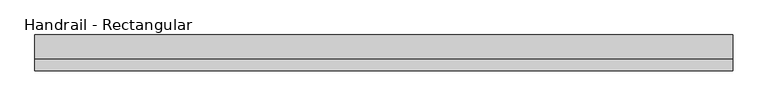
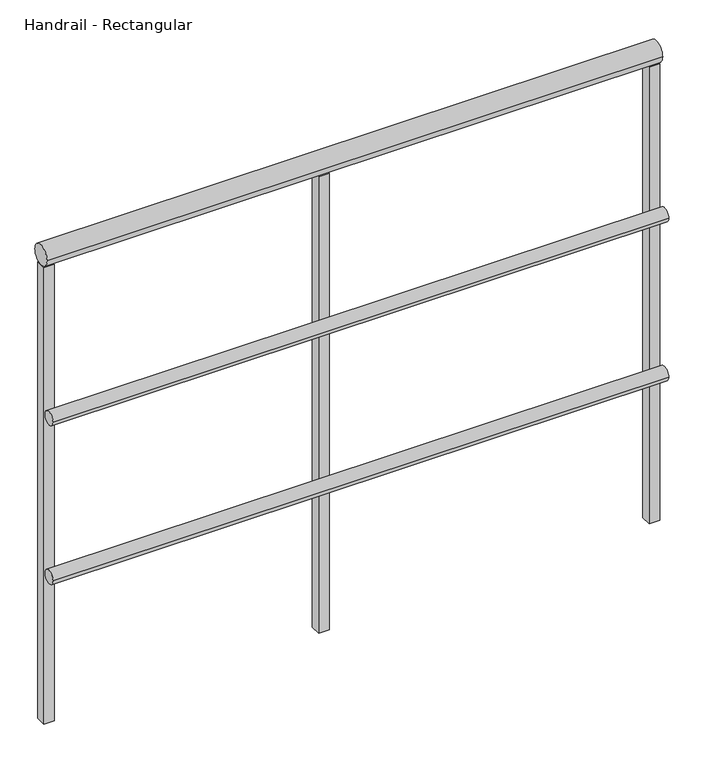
"""IFC4 building model written with IfcOpenShell, lengths in millimetres: railing geometry, Handrail - Rectangular."""

import ifcopenshell
import ifcopenshell.guid

model = None  # the IFC model being written
_history = None  # IfcOwnerHistory: only IFC2X3 demands one
_inside = {}  # id of a spatial element -> (the spatial element, [elements in it])
_under = {}  # id of a project, library or spatial element -> (it, [spatial elements below it])
_declared = {}  # id of a project -> (the project, [libraries it declares])
_typed = {}  # id of a type object -> (the type object, [elements of that type])
_made_of = {}  # id of a material, layer set ... -> (it, [elements and type objects made of it])


def new_model(schema):
    """Start an empty IFC model of exactly this schema.

    Asked for "IFC4X3", IfcOpenShell would pick the latest addendum, in which some entities
    have other attributes; the version numbers below select the first issue.
    IFC2X3 requires an IfcOwnerHistory on every rooted entity: one is made here for all.
    """
    global model, _history
    if schema == "IFC4X3":
        model = ifcopenshell.file(schema_version=(4, 3, 0, 0))
    else:
        model = ifcopenshell.file(schema=schema)
    _inside.clear()
    _under.clear()
    _declared.clear()
    _typed.clear()
    _made_of.clear()
    _history = None
    if model.schema == "IFC2X3":
        org = make("IfcOrganization", Name="unknown")
        user = make(
            "IfcPersonAndOrganization",
            ThePerson=make("IfcPerson", FamilyName="unknown"),
            TheOrganization=org,
        )
        app = make(
            "IfcApplication",
            ApplicationDeveloper=org,
            Version="unknown",
            ApplicationFullName="unknown",
            ApplicationIdentifier="unknown",
        )
        _history = make(
            "IfcOwnerHistory",
            OwningUser=user,
            OwningApplication=app,
            ChangeAction="ADDED",
            CreationDate=0,
        )
    return model


def make(cls, **values):
    """One entity of the class cls with the attributes given. An attribute that is None is left unset."""
    return model.create_entity(
        cls, **{name: value for name, value in values.items() if value is not None}
    )


def rooted(cls, **values):
    """An entity with a GlobalId (a new one), such as an element, a storey or a relation."""
    return make(cls, GlobalId=ifcopenshell.guid.new(), OwnerHistory=_history, **values)


def si_unit(unit_type, name, prefix=None):
    """IfcSIUnit, for example si_unit("LENGTHUNIT", "METRE", prefix="MILLI")."""
    return make("IfcSIUnit", UnitType=unit_type, Prefix=prefix, Name=name)


def assignment(units):
    """IfcUnitAssignment: the units of a project."""
    return None if units is None else make("IfcUnitAssignment", Units=units)


def point(xyz):
    """IfcCartesianPoint."""
    return None if xyz is None else make("IfcCartesianPoint", Coordinates=xyz)


def direction(xyz):
    """IfcDirection."""
    return None if xyz is None else make("IfcDirection", DirectionRatios=xyz)


def frame(location, z_axis=None, x_axis=None):
    """IfcAxis2Placement3D, a coordinate frame: its origin and axes. An axis left out is left unset."""
    return make(
        "IfcAxis2Placement3D",
        Location=point(location),
        Axis=direction(z_axis),
        RefDirection=direction(x_axis),
    )


def frame_2d(location, x_axis=None):
    """IfcAxis2Placement2D, a coordinate frame in the plane: its origin and x axis."""
    return make(
        "IfcAxis2Placement2D", Location=point(location), RefDirection=direction(x_axis)
    )


def origin():
    """The frame at (0, 0, 0) with its axes left unset."""
    return frame((0.0, 0.0, 0.0))


def place(relative_to, where):
    """IfcLocalPlacement: puts the frame where relative to a parent placement (None: the world)."""
    return make(
        "IfcLocalPlacement", PlacementRelTo=relative_to, RelativePlacement=where
    )


def context(
    kind, dimensions, precision=None, world=None, true_north=None, identifier=None
):
    """IfcGeometricRepresentationContext, for example the 3D "Model" context."""
    return make(
        "IfcGeometricRepresentationContext",
        ContextIdentifier=identifier,
        ContextType=kind,
        CoordinateSpaceDimension=dimensions,
        Precision=precision,
        WorldCoordinateSystem=world,
        TrueNorth=true_north,
    )


def project(units=None, contexts=None):
    """IfcProject with its units and contexts."""
    return rooted(
        "IfcProject",
        Name="project",
        RepresentationContexts=contexts,
        UnitsInContext=assignment(units),
    )


def spatial(cls, under=None, at=None, **own):
    """A site, building, storey or space (cls), placed at a placement, below another one or the project."""
    s = rooted(cls, ObjectPlacement=at, **own)
    if under is not None:
        _under.setdefault(under.id(), (under, []))[1].append(s)
    return s


def polyline(points):
    """IfcPolyline through the points."""
    return make("IfcPolyline", Points=[point(p) for p in points])


def circle_curve(where, radius):
    """IfcCircle in the frame where."""
    return make("IfcCircle", Position=where, Radius=radius)


def trimmed(basis, trim1, trim2, sense, master):
    """IfcTrimmedCurve: the piece of a basis curve between two trims."""
    return make(
        "IfcTrimmedCurve",
        BasisCurve=basis,
        Trim1=trim1,
        Trim2=trim2,
        SenseAgreement=sense,
        MasterRepresentation=master,
    )


def segment(curve, same_sense, transition):
    """IfcCompositeCurveSegment."""
    return make(
        "IfcCompositeCurveSegment",
        Transition=transition,
        SameSense=same_sense,
        ParentCurve=curve,
    )


def composite_curve(segments, self_intersect=None):
    """IfcCompositeCurve: segments joined end to end."""
    return make("IfcCompositeCurve", Segments=segments, SelfIntersect=self_intersect)


def outline(outer, holes=None, kind="AREA"):
    """IfcArbitraryClosedProfileDef: a profile drawn as a closed curve; with holes, ...WithVoids."""
    if holes is None:
        return make("IfcArbitraryClosedProfileDef", ProfileType=kind, OuterCurve=outer)
    return make(
        "IfcArbitraryProfileDefWithVoids",
        ProfileType=kind,
        OuterCurve=outer,
        InnerCurves=holes,
    )


def extrude(swept, where, along, depth):
    """IfcExtrudedAreaSolid: the profile swept, set in the frame where, extruded along a direction by depth."""
    return make(
        "IfcExtrudedAreaSolid",
        SweptArea=swept,
        Position=where,
        ExtrudedDirection=direction(along),
        Depth=depth,
    )


def shape(context_of_items, identifier, shape_type, items):
    """IfcShapeRepresentation: the items that make up one representation, for example the "Body"."""
    return make(
        "IfcShapeRepresentation",
        ContextOfItems=context_of_items,
        RepresentationIdentifier=identifier,
        RepresentationType=shape_type,
        Items=items,
    )


def source(mapping_origin, context_of_items, identifier, shape_type, items):
    """IfcRepresentationMap: a shape defined once, which mapped items show again and again."""
    return make(
        "IfcRepresentationMap",
        MappingOrigin=mapping_origin,
        MappedRepresentation=shape(context_of_items, identifier, shape_type, items),
    )


def transform(
    local_origin,
    x_axis=None,
    y_axis=None,
    z_axis=None,
    scale=None,
    scale2=None,
    scale3=None,
    uniform=True,
):
    """IfcCartesianTransformationOperator3D, or its non-uniform kind. x_axis, y_axis, z_axis: its Axis1, 2, 3."""
    if uniform:
        return make(
            "IfcCartesianTransformationOperator3D",
            Axis1=direction(x_axis),
            Axis2=direction(y_axis),
            LocalOrigin=point(local_origin),
            Scale=scale,
            Axis3=direction(z_axis),
        )
    return make(
        "IfcCartesianTransformationOperator3DnonUniform",
        Axis1=direction(x_axis),
        Axis2=direction(y_axis),
        LocalOrigin=point(local_origin),
        Scale=scale,
        Axis3=direction(z_axis),
        Scale2=scale2,
        Scale3=scale3,
    )


def mapped(mapping_source, mapping_target):
    """IfcMappedItem: shows the shape of a source again, moved by a transform."""
    return make(
        "IfcMappedItem", MappingSource=mapping_source, MappingTarget=mapping_target
    )


def made_of(thing, what):
    """Note that an element or type object is made of a material, layer set ...; save() writes the relation."""
    if what is not None:
        _made_of.setdefault(what.id(), (what, []))[1].append(thing)
    return thing


def element(
    cls,
    number,
    at=None,
    inside=None,
    cuts=None,
    type_object=None,
    material=None,
    context=None,
    identifier="Body",
    shape_type=None,
    held_by="IfcProductDefinitionShape",
    body=None,
    shapes=None,
    **own,
):
    """One element of the class cls, such as IfcWall. Its Tag is "e" and its number.

    at: its placement. inside: the storey or other place that contains it. cuts: it is an
    opening in that element (IfcRelVoidsElement). A single representation is given by context,
    identifier, shape_type and body (its items); several are given by shapes. held_by: the class
    of the entity that holds the representations. save() writes the other relations.
    """
    e = rooted(cls, Tag="e%d" % number, ObjectPlacement=at, **own)
    if body is not None:
        shapes = [shape(context, identifier, shape_type, body)]
    if shapes is not None:
        e.Representation = make(held_by, Representations=shapes)
    if inside is not None:
        _inside.setdefault(inside.id(), (inside, []))[1].append(e)
    if cuts is not None:
        rooted(
            "IfcRelVoidsElement", RelatingBuildingElement=cuts, RelatedOpeningElement=e
        )
    if type_object is not None:
        _typed.setdefault(type_object.id(), (type_object, []))[1].append(e)
    return made_of(e, material)


def aggregate(whole, parts):
    """IfcRelAggregates: a whole, such as a stair, and the parts it consists of."""
    return rooted("IfcRelAggregates", RelatingObject=whole, RelatedObjects=parts)


def save(model, path):
    """Write the relations noted so far, then the file.

    IfcRelAggregates (storeys below a building ...), IfcRelContainedInSpatialStructure (elements
    in a storey), IfcRelDefinesByType, IfcRelAssociatesMaterial and IfcRelDeclares: one each for
    every whole, place, type object, material and project.
    """
    for whole, parts in _under.values():
        aggregate(whole, parts)
    for where, things in _inside.values():
        rooted(
            "IfcRelContainedInSpatialStructure",
            RelatedElements=things,
            RelatingStructure=where,
        )
    for kind, things in _typed.values():
        rooted("IfcRelDefinesByType", RelatedObjects=things, RelatingType=kind)
    for what, things in _made_of.values():
        rooted("IfcRelAssociatesMaterial", RelatedObjects=things, RelatingMaterial=what)
    for by, libraries in _declared.values():
        rooted("IfcRelDeclares", RelatingContext=by, RelatedDefinitions=libraries)
    model.write(path)


def handrail_rectangular_e9e78f14(model_context):
    return source(origin(), model_context, "Body", "SweptSolid", [
        extrude(outline(composite_curve([segment(trimmed(circle_curve(frame_2d((4350.2316867, 3644.9)), 12.7), [point((4337.5316867, 3644.9))], [point((4362.9316867, 3644.9))], False, "CARTESIAN"), True, "CONTINUOUS"), segment(trimmed(circle_curve(frame_2d((4350.2316867, 3644.9)), 12.7), [point((4362.9316867, 3644.9))], [point((4337.5316867, 3644.9))], False, "CARTESIAN"), True, "CONTINUOUS")], self_intersect=False)), frame((976.3410437, 0.0, 0.0), z_axis=(1.0, 0.0, 0.0), x_axis=(0.0, 1.0, 0.0)), (0.0, 0.0, 1.0), 1117.6),
        extrude(outline(composite_curve([segment(trimmed(circle_curve(frame_2d((4350.2316867, 3340.1)), 12.7), [point((4337.5316867, 3340.1))], [point((4362.9316867, 3340.1))], False, "CARTESIAN"), True, "CONTINUOUS"), segment(trimmed(circle_curve(frame_2d((4350.2316867, 3340.1)), 12.7), [point((4362.9316867, 3340.1))], [point((4337.5316867, 3340.1))], False, "CARTESIAN"), True, "CONTINUOUS")], self_intersect=False)), frame((976.3410437, 0.0, 0.0), z_axis=(1.0, 0.0, 0.0), x_axis=(0.0, 1.0, 0.0)), (0.0, 0.0, 1.0), 1117.6),
        extrude(outline(composite_curve([segment(trimmed(circle_curve(frame_2d((4375.6316867, 3943.35)), 19.05), [point((4356.5816867, 3943.35))], [point((4394.6816867, 3943.35))], False, "CARTESIAN"), True, "CONTINUOUS"), segment(trimmed(circle_curve(frame_2d((4375.6316867, 3943.35)), 19.05), [point((4394.6816867, 3943.35))], [point((4356.5816867, 3943.35))], False, "CARTESIAN"), True, "CONTINUOUS")], self_intersect=False)), frame((976.3410437, 0.0, 0.0), z_axis=(1.0, 0.0, 0.0), x_axis=(0.0, 1.0, 0.0)), (0.0, 0.0, 1.0), 1117.6),
        extrude(outline(polyline([(1493.8660437, 4385.1566867), (1493.8660437, 4366.1066867), (1474.8160437, 4366.1066867), (1474.8160437, 4385.1566867), (1493.8660437, 4385.1566867)])), frame((0.0, 0.0, 3048.0), z_axis=(0.0, 0.0, 1.0), x_axis=(1.0, 0.0, 0.0)), (0.0, 0.0, 1.0), 876.3),
        extrude(outline(polyline([(995.3910437, 4385.1566867), (995.3910437, 4366.1066867), (976.3410437, 4366.1066867), (976.3410437, 4385.1566867), (995.3910437, 4385.1566867)])), frame((0.0, 0.0, 3048.0), z_axis=(0.0, 0.0, 1.0), x_axis=(1.0, 0.0, 0.0)), (0.0, 0.0, 1.0), 876.3),
        extrude(outline(polyline([(2093.9410437, 4385.1566867), (2093.9410437, 4366.1066867), (2074.8910437, 4366.1066867), (2074.8910437, 4385.1566867), (2093.9410437, 4385.1566867)])), frame((0.0, 0.0, 3048.0), z_axis=(0.0, 0.0, 1.0), x_axis=(1.0, 0.0, 0.0)), (0.0, 0.0, 1.0), 876.3),
    ])


if __name__ == "__main__":
    model = new_model("IFC4")
    model_context = context("Model", 3, world=origin())
    ifc_project = project(units=[si_unit("LENGTHUNIT", "METRE", prefix="MILLI")], contexts=[model_context])
    site = spatial("IfcSite", under=ifc_project)
    building = spatial("IfcBuilding", under=site)
    placement = place(None, origin())
    handrail_rectangular_shape = handrail_rectangular_e9e78f14(model_context)
    element("IfcRailing", 1, ObjectType="Handrail - Rectangular", at=placement, inside=building, context=model_context, shape_type="MappedRepresentation", body=[
        mapped(handrail_rectangular_shape, transform((0.0, 0.0, 0.0), x_axis=(1.0, 0.0, 0.0), y_axis=(0.0, 1.0, 0.0), z_axis=(0.0, 0.0, 1.0))),
    ])
    save(model, "model.ifc")
